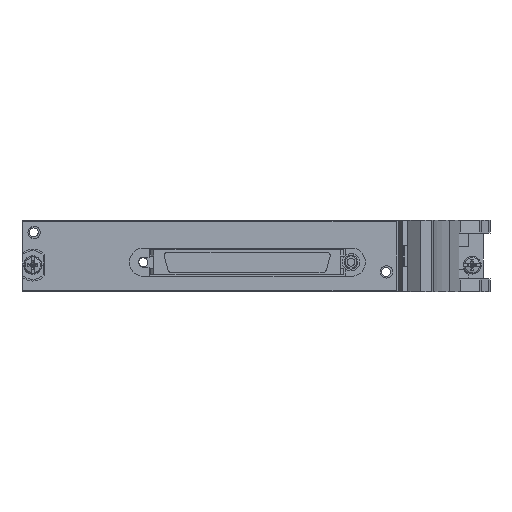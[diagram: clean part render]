
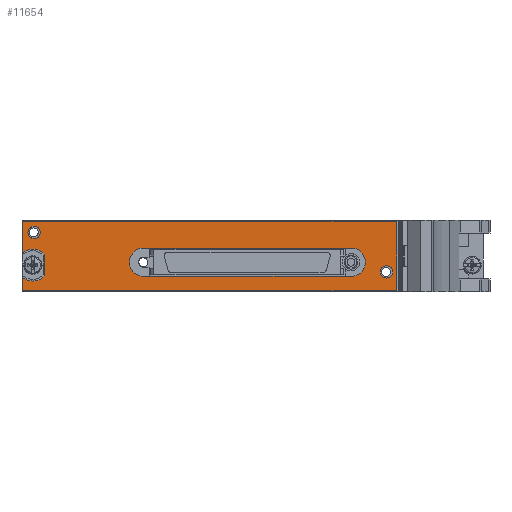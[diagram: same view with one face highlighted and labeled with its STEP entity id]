
A CAD part, left-side view. The second image highlights one B-rep face of the part: STEP entity #11654.
In plain terms, the highlighted planar face has unit normal (-1, 0, 0).
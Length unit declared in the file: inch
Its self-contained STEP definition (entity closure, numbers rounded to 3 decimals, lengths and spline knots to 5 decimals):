
#7674=CARTESIAN_POINT('',(-4.29052,0.53844,0.6635));
#7675=DIRECTION('',(-1.,0.,0.));
#7676=DIRECTION('',(0.,0.,1.));
#7677=AXIS2_PLACEMENT_3D('',#7674,#7675,#7676);
#7679=DIRECTION('',(0.,1.,0.));
#7680=VECTOR('',#7679,4.07);
#7681=CARTESIAN_POINT('',(-4.29052,-3.53156,0.6835));
#7682=LINE('',#7681,#7680);
#7683=CARTESIAN_POINT('',(-4.29052,-3.53156,0.6635));
#7684=DIRECTION('',(-1.,0.,0.));
#7685=DIRECTION('',(0.,-1.,0.));
#7686=AXIS2_PLACEMENT_3D('',#7683,#7684,#7685);
#7688=DIRECTION('',(0.,0.,1.));
#7689=VECTOR('',#7688,0.728);
#7690=CARTESIAN_POINT('',(-4.29052,-3.55156,-0.0645));
#7691=LINE('',#7690,#7689);
#7692=CARTESIAN_POINT('',(-4.29052,-3.53156,-0.0645));
#7693=DIRECTION('',(-1.,0.,0.));
#7694=DIRECTION('',(0.,0.,-1.));
#7695=AXIS2_PLACEMENT_3D('',#7692,#7693,#7694);
#7697=DIRECTION('',(0.,-1.,0.));
#7698=VECTOR('',#7697,4.07);
#7699=CARTESIAN_POINT('',(-4.29052,0.53844,-0.0845));
#7700=LINE('',#7699,#7698);
#7701=CARTESIAN_POINT('',(-4.29052,0.53844,-0.0645));
#7702=DIRECTION('',(-1.,0.,0.));
#7703=DIRECTION('',(0.,1.,0.));
#7704=AXIS2_PLACEMENT_3D('',#7701,#7702,#7703);
#7706=DIRECTION('',(0.,0.,-1.));
#7707=VECTOR('',#7706,0.12953);
#7708=CARTESIAN_POINT('',(-4.29052,0.55844,0.06503));
#7709=LINE('',#7708,#7707);
#7710=CARTESIAN_POINT('',(-4.29052,0.44644,0.1995));
#7711=DIRECTION('',(1.,0.,0.));
#7712=DIRECTION('',(0.,-0.737,-0.676));
#7713=AXIS2_PLACEMENT_3D('',#7710,#7711,#7712);
#7715=DIRECTION('',(0.,0.,-1.));
#7716=VECTOR('',#7715,0.23651);
#7717=CARTESIAN_POINT('',(-4.29052,0.31744,0.31775));
#7718=LINE('',#7717,#7716);
#7719=CARTESIAN_POINT('',(-4.29052,0.44644,0.1995));
#7720=DIRECTION('',(1.,0.,0.));
#7721=DIRECTION('',(0.,0.64,0.768));
#7722=AXIS2_PLACEMENT_3D('',#7719,#7720,#7721);
#7724=DIRECTION('',(0.,0.,-1.));
#7725=VECTOR('',#7724,0.32953);
#7726=CARTESIAN_POINT('',(-4.29052,0.55844,0.6635));
#7727=LINE('',#7726,#7725);
#7728=CARTESIAN_POINT('',(-4.29052,0.43217,0.5585));
#7729=DIRECTION('',(-1.,0.,0.));
#7730=DIRECTION('',(0.,0.,1.));
#7731=AXIS2_PLACEMENT_3D('',#7728,#7729,#7730);
#7733=CARTESIAN_POINT('',(-4.29052,0.43217,0.5585));
#7734=DIRECTION('',(-1.,0.,0.));
#7735=DIRECTION('',(0.,0.,-1.));
#7736=AXIS2_PLACEMENT_3D('',#7733,#7734,#7735);
#7738=CARTESIAN_POINT('',(-4.29052,-3.43683,0.1245));
#7739=DIRECTION('',(-1.,0.,0.));
#7740=DIRECTION('',(0.,0.,1.));
#7741=AXIS2_PLACEMENT_3D('',#7738,#7739,#7740);
#7743=CARTESIAN_POINT('',(-4.29052,-3.43683,0.1245));
#7744=DIRECTION('',(-1.,0.,0.));
#7745=DIRECTION('',(0.,0.,-1.));
#7746=AXIS2_PLACEMENT_3D('',#7743,#7744,#7745);
#7748=CARTESIAN_POINT('',(-4.29052,-3.04991,0.2315));
#7749=DIRECTION('',(-1.,0.,0.));
#7750=DIRECTION('',(0.,0.,-1.));
#7751=AXIS2_PLACEMENT_3D('',#7748,#7749,#7750);
#7753=DIRECTION('',(0.,1.,0.));
#7754=VECTOR('',#7753,2.28);
#7755=CARTESIAN_POINT('',(-4.29052,-3.04991,0.3865));
#7756=LINE('',#7755,#7754);
#7757=CARTESIAN_POINT('',(-4.29052,-0.76991,0.2315));
#7758=DIRECTION('',(-1.,0.,0.));
#7759=DIRECTION('',(0.,0.,1.));
#7760=AXIS2_PLACEMENT_3D('',#7757,#7758,#7759);
#7762=DIRECTION('',(0.,-1.,0.));
#7763=VECTOR('',#7762,2.28);
#7764=CARTESIAN_POINT('',(-4.29052,-0.76991,0.0765));
#7765=LINE('',#7764,#7763);
#10038=CARTESIAN_POINT('',(-4.29052,0.53844,0.6835));
#10039=CARTESIAN_POINT('',(-4.29052,0.55844,0.6635));
#10040=VERTEX_POINT('',#10038);
#10041=VERTEX_POINT('',#10039);
#10042=CARTESIAN_POINT('',(-4.29052,0.55844,0.33397));
#10043=VERTEX_POINT('',#10042);
#10044=CARTESIAN_POINT('',(-4.29052,0.31744,0.31775));
#10045=VERTEX_POINT('',#10044);
#10046=CARTESIAN_POINT('',(-4.29052,0.31744,0.08125));
#10047=VERTEX_POINT('',#10046);
#10048=CARTESIAN_POINT('',(-4.29052,0.55844,0.06503));
#10049=VERTEX_POINT('',#10048);
#10050=CARTESIAN_POINT('',(-4.29052,0.55844,-0.0645));
#10051=VERTEX_POINT('',#10050);
#10052=CARTESIAN_POINT('',(-4.29052,0.53844,-0.0845));
#10053=VERTEX_POINT('',#10052);
#10054=CARTESIAN_POINT('',(-4.29052,-3.53156,-0.0845));
#10055=VERTEX_POINT('',#10054);
#10056=CARTESIAN_POINT('',(-4.29052,-3.55156,-0.0645));
#10057=VERTEX_POINT('',#10056);
#10058=CARTESIAN_POINT('',(-4.29052,-3.55156,0.6635));
#10059=VERTEX_POINT('',#10058);
#10060=CARTESIAN_POINT('',(-4.29052,-3.53156,0.6835));
#10061=VERTEX_POINT('',#10060);
#10062=CARTESIAN_POINT('',(-4.29052,0.43217,0.626));
#10063=CARTESIAN_POINT('',(-4.29052,0.43217,0.491));
#10064=VERTEX_POINT('',#10062);
#10065=VERTEX_POINT('',#10063);
#10066=CARTESIAN_POINT('',(-4.29052,-3.43683,0.192));
#10067=CARTESIAN_POINT('',(-4.29052,-3.43683,0.057));
#10068=VERTEX_POINT('',#10066);
#10069=VERTEX_POINT('',#10067);
#10070=CARTESIAN_POINT('',(-4.29052,-3.04991,0.0765));
#10071=CARTESIAN_POINT('',(-4.29052,-3.04991,0.3865));
#10072=VERTEX_POINT('',#10070);
#10073=VERTEX_POINT('',#10071);
#10074=CARTESIAN_POINT('',(-4.29052,-0.76991,0.3865));
#10075=VERTEX_POINT('',#10074);
#10076=CARTESIAN_POINT('',(-4.29052,-0.76991,0.0765));
#10077=VERTEX_POINT('',#10076);
#11604=CARTESIAN_POINT('',(-4.29052,0.44644,0.1995));
#11605=DIRECTION('',(-1.,0.,0.));
#11606=DIRECTION('',(0.,0.,1.));
#11607=AXIS2_PLACEMENT_3D('',#11604,#11605,#11606);
#11608=PLANE('',#11607);
#11610=ORIENTED_EDGE('',*,*,#11609,.F.);
#11612=ORIENTED_EDGE('',*,*,#11611,.F.);
#11614=ORIENTED_EDGE('',*,*,#11613,.F.);
#11616=ORIENTED_EDGE('',*,*,#11615,.F.);
#11618=ORIENTED_EDGE('',*,*,#11617,.F.);
#11620=ORIENTED_EDGE('',*,*,#11619,.F.);
#11622=ORIENTED_EDGE('',*,*,#11621,.F.);
#11624=ORIENTED_EDGE('',*,*,#11623,.F.);
#11626=ORIENTED_EDGE('',*,*,#11625,.F.);
#11628=ORIENTED_EDGE('',*,*,#11627,.F.);
#11630=ORIENTED_EDGE('',*,*,#11629,.F.);
#11631=ORIENTED_EDGE('',*,*,#10251,.F.);
#11632=EDGE_LOOP('',(#11610,#11612,#11614,#11616,#11618,#11620,#11622,#11624,
#11626,#11628,#11630,#11631));
#11633=FACE_OUTER_BOUND('',#11632,.F.);
#11635=ORIENTED_EDGE('',*,*,#11634,.T.);
#11637=ORIENTED_EDGE('',*,*,#11636,.T.);
#11638=EDGE_LOOP('',(#11635,#11637));
#11639=FACE_BOUND('',#11638,.F.);
#11641=ORIENTED_EDGE('',*,*,#11640,.T.);
#11643=ORIENTED_EDGE('',*,*,#11642,.T.);
#11644=EDGE_LOOP('',(#11641,#11643));
#11645=FACE_BOUND('',#11644,.F.);
#11646=ORIENTED_EDGE('',*,*,#11597,.T.);
#11647=ORIENTED_EDGE('',*,*,#11276,.T.);
#11649=ORIENTED_EDGE('',*,*,#11648,.T.);
#11651=ORIENTED_EDGE('',*,*,#11650,.T.);
#11652=EDGE_LOOP('',(#11646,#11647,#11649,#11651));
#11653=FACE_BOUND('',#11652,.F.);
#11654=ADVANCED_FACE('',(#11633,#11639,#11645,#11653),#11608,.T.);
#7678=CIRCLE('',#7677,0.02);
#7687=CIRCLE('',#7686,0.02);
#7696=CIRCLE('',#7695,0.02);
#7705=CIRCLE('',#7704,0.02);
#7714=CIRCLE('',#7713,0.175);
#7723=CIRCLE('',#7722,0.175);
#7732=CIRCLE('',#7731,0.0675);
#7737=CIRCLE('',#7736,0.0675);
#7742=CIRCLE('',#7741,0.0675);
#7747=CIRCLE('',#7746,0.0675);
#7752=CIRCLE('',#7751,0.155);
#7761=CIRCLE('',#7760,0.155);
#10251=EDGE_CURVE('',#10041,#10043,#7727,.T.);
#11276=EDGE_CURVE('',#10073,#10075,#7756,.T.);
#11597=EDGE_CURVE('',#10072,#10073,#7752,.T.);
#11609=EDGE_CURVE('',#10040,#10041,#7678,.T.);
#11611=EDGE_CURVE('',#10061,#10040,#7682,.T.);
#11613=EDGE_CURVE('',#10059,#10061,#7687,.T.);
#11615=EDGE_CURVE('',#10057,#10059,#7691,.T.);
#11617=EDGE_CURVE('',#10055,#10057,#7696,.T.);
#11619=EDGE_CURVE('',#10053,#10055,#7700,.T.);
#11621=EDGE_CURVE('',#10051,#10053,#7705,.T.);
#11623=EDGE_CURVE('',#10049,#10051,#7709,.T.);
#11625=EDGE_CURVE('',#10047,#10049,#7714,.T.);
#11627=EDGE_CURVE('',#10045,#10047,#7718,.T.);
#11629=EDGE_CURVE('',#10043,#10045,#7723,.T.);
#11634=EDGE_CURVE('',#10064,#10065,#7732,.T.);
#11636=EDGE_CURVE('',#10065,#10064,#7737,.T.);
#11640=EDGE_CURVE('',#10068,#10069,#7742,.T.);
#11642=EDGE_CURVE('',#10069,#10068,#7747,.T.);
#11648=EDGE_CURVE('',#10075,#10077,#7761,.T.);
#11650=EDGE_CURVE('',#10077,#10072,#7765,.T.);
